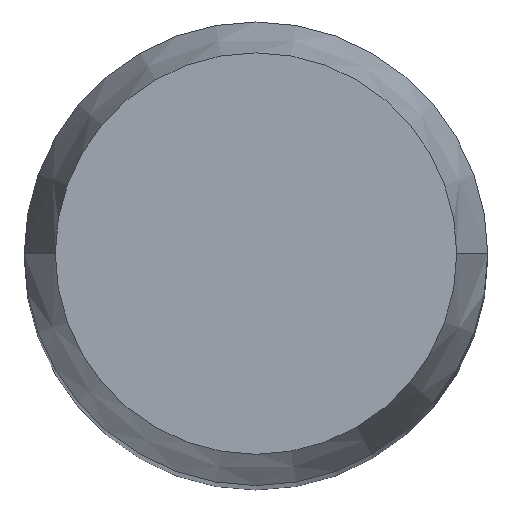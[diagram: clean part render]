
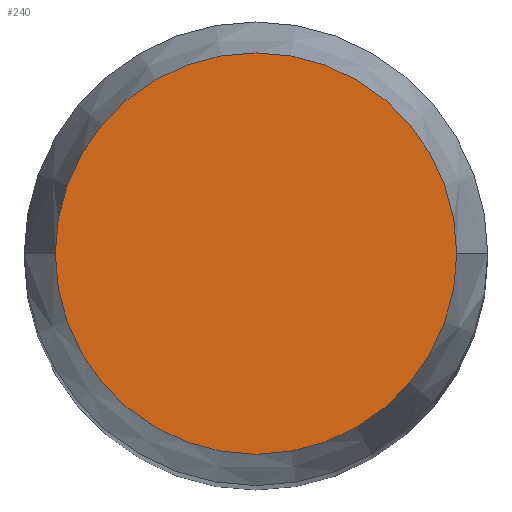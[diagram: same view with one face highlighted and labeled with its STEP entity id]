
A CAD part, top view. The second image highlights one B-rep face of the part: STEP entity #240.
In plain terms, the highlighted planar face has unit normal (0, 0, 1).
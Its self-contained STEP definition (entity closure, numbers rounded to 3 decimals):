
#9 = EDGE_CURVE ( 'NONE', #87, #95, #85, .T. ) ;
#11 = EDGE_CURVE ( 'NONE', #95, #87, #82, .T. ) ;
#14 = AXIS2_PLACEMENT_3D ( 'NONE', #181, #185, #192 ) ;
#27 = AXIS2_PLACEMENT_3D ( 'NONE', #163, #153, #159 ) ;
#50 = AXIS2_PLACEMENT_3D ( 'NONE', #158, #165, #145 ) ;
#59 = ORIENTED_EDGE ( 'NONE', *, *, #11, .T. ) ;
#60 = EDGE_LOOP ( 'NONE', ( #71, #59 ) ) ;
#71 = ORIENTED_EDGE ( 'NONE', *, *, #9, .T. ) ;
#82 = CIRCLE ( 'NONE', #50, 0.866 ) ;
#85 = CIRCLE ( 'NONE', #27, 0.866 ) ;
#87 = VERTEX_POINT ( 'NONE', #215 ) ;
#95 = VERTEX_POINT ( 'NONE', #174 ) ;
#110 = FACE_OUTER_BOUND ( 'NONE', #60, .T. ) ;
#145 = DIRECTION ( 'NONE',  ( 1., 0., 0. ) ) ;
#153 = DIRECTION ( 'NONE',  ( 0., 0., 1. ) ) ;
#158 = CARTESIAN_POINT ( 'NONE',  ( 0., 0., 12. ) ) ;
#159 = DIRECTION ( 'NONE',  ( 1., 0., 0. ) ) ;
#163 = CARTESIAN_POINT ( 'NONE',  ( 0., 0., 12. ) ) ;
#165 = DIRECTION ( 'NONE',  ( 0., 0., 1. ) ) ;
#174 = CARTESIAN_POINT ( 'NONE',  ( 0.866, 0., 12. ) ) ;
#181 = CARTESIAN_POINT ( 'NONE',  ( 0., 0., 12. ) ) ;
#185 = DIRECTION ( 'NONE',  ( 0., 0., 1. ) ) ;
#192 = DIRECTION ( 'NONE',  ( 1., 0., 0. ) ) ;
#204 = PLANE ( 'NONE',  #14 ) ;
#215 = CARTESIAN_POINT ( 'NONE',  ( -0.866, 0., 12. ) ) ;
#240 = ADVANCED_FACE ( 'NONE', ( #110 ), #204, .T. ) ;
